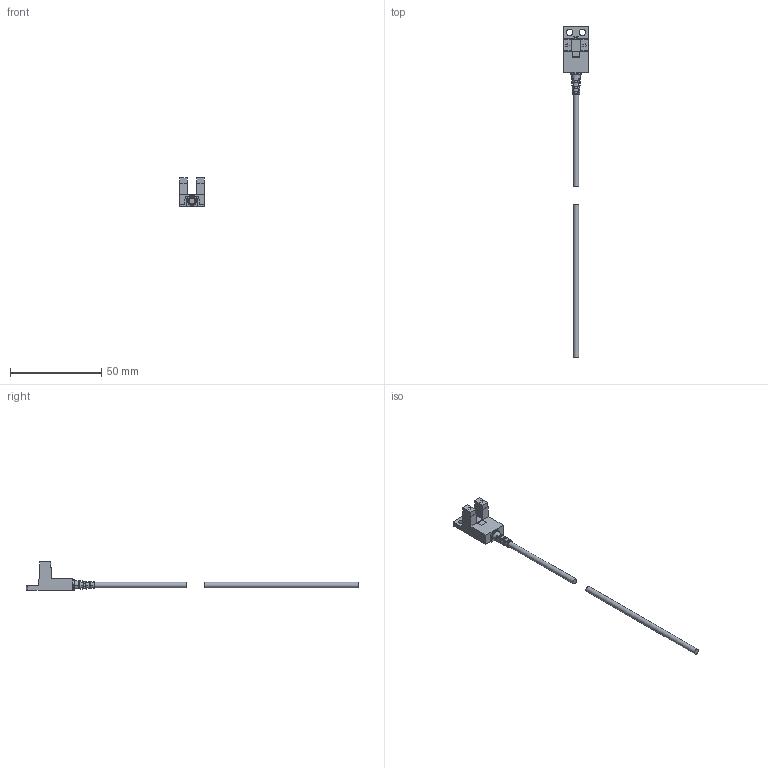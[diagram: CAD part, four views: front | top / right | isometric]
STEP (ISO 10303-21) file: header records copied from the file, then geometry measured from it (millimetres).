
FILE_DESCRIPTION(/* description */ (''),/* implementation_level */ '2;1');
FILE_NAME(/* name */ '104030253 FC-SPX307Z-CP',/* time_stamp */ '2022-04-02T10:42:13+08:00',/* author */ (''),/* organization */ (''),/* preprocessor_version */ 'ST-DEVELOPER v9',/* originating_system */ 'UGS - NX 4.0',/* authorisation */ '');
FILE_SCHEMA (('CONFIG_CONTROL_DESIGN'));
Length unit declared in the file: millimetre
Products named in the file (1): 104030253 FC-SPX307Z-CP
Bounding box: 13.6 x 181.47 x 15.6 mm (x, y, z)
Volume: 3347.9 mm3; surface area: 3912.1 mm2
Topology: 4 solids, 4 shells, 142 faces, 402 edges, 270 vertices
Faces by surface type: plane 110, cylinder 27, torus 3, cone 2
Full cylindrical faces by diameter (mm): 3 x2, 3.5 x2
Entity records: 6103 total; most frequent: CARTESIAN_POINT 2309, ORIENTED_EDGE 788, DIRECTION 709, EDGE_CURVE 394, LINE 273, VECTOR 273, VERTEX_POINT 266, AXIS2_PLACEMENT_3D 218
